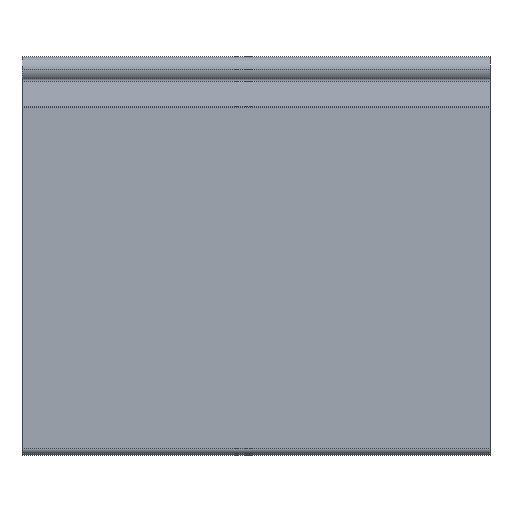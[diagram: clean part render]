
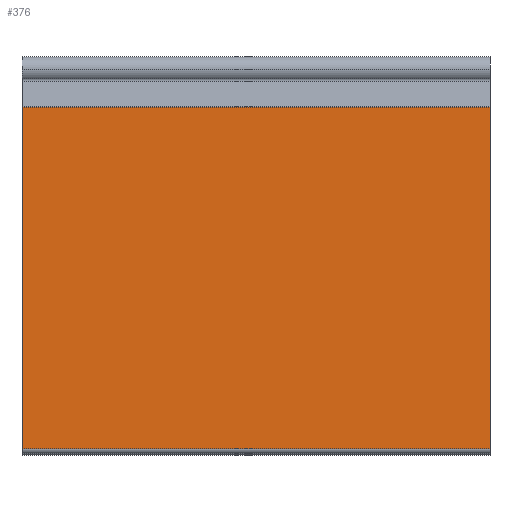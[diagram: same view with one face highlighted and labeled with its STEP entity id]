
A CAD part, top view. The second image highlights one B-rep face of the part: STEP entity #376.
In plain terms, the highlighted planar face has unit normal (0, 0, 1).
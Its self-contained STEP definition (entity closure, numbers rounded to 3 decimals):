
#77 = VECTOR ( 'NONE', #477, 1000. ) ;
#80 = LINE ( 'NONE', #468, #77 ) ;
#104 = LINE ( 'NONE', #501, #105 ) ;
#105 = VECTOR ( 'NONE', #502, 1000. ) ;
#106 = LINE ( 'NONE', #503, #107 ) ;
#107 = VECTOR ( 'NONE', #504, 1000. ) ;
#180 = LINE ( 'NONE', #600, #183 ) ;
#183 = VECTOR ( 'NONE', #601, 1000. ) ;
#331 = EDGE_LOOP ( 'NONE', ( #851, #850, #849, #848 ) ) ;
#376 = ADVANCED_FACE ( 'NONE', ( #985 ), #1189, .F. ) ;
#442 = EDGE_CURVE ( 'NONE', #1083, #1092, #80, .T. ) ;
#454 = EDGE_CURVE ( 'NONE', #1057, #1083, #104, .T. ) ;
#468 = CARTESIAN_POINT ( 'NONE',  ( -75., -12.164, 4.05 ) ) ;
#477 = DIRECTION ( 'NONE',  ( 0., -1., 0. ) ) ;
#501 = CARTESIAN_POINT ( 'NONE',  ( 75., -12.164, 4.05 ) ) ;
#502 = DIRECTION ( 'NONE',  ( -1., 0., 0. ) ) ;
#503 = CARTESIAN_POINT ( 'NONE',  ( 75., -121.663, 4.05 ) ) ;
#504 = DIRECTION ( 'NONE',  ( -1., 0., 0. ) ) ;
#600 = CARTESIAN_POINT ( 'NONE',  ( 75., -12.164, 4.05 ) ) ;
#601 = DIRECTION ( 'NONE',  ( 0., -1., 0. ) ) ;
#636 = CARTESIAN_POINT ( 'NONE',  ( 75., -121.663, 4.05 ) ) ;
#645 = CARTESIAN_POINT ( 'NONE',  ( 75., -12.164, 4.05 ) ) ;
#671 = CARTESIAN_POINT ( 'NONE',  ( -75., -12.164, 4.05 ) ) ;
#680 = CARTESIAN_POINT ( 'NONE',  ( -75., -121.663, 4.05 ) ) ;
#715 = EDGE_CURVE ( 'NONE', #1048, #1092, #106, .T. ) ;
#759 = EDGE_CURVE ( 'NONE', #1057, #1048, #180, .T. ) ;
#794 = AXIS2_PLACEMENT_3D ( 'NONE', #1188, #1191, #1192 ) ;
#848 = ORIENTED_EDGE ( 'NONE', *, *, #454, .T. ) ;
#849 = ORIENTED_EDGE ( 'NONE', *, *, #759, .F. ) ;
#850 = ORIENTED_EDGE ( 'NONE', *, *, #715, .F. ) ;
#851 = ORIENTED_EDGE ( 'NONE', *, *, #442, .T. ) ;
#985 = FACE_OUTER_BOUND ( 'NONE', #331, .T. ) ;
#1048 = VERTEX_POINT ( 'NONE', #636 ) ;
#1057 = VERTEX_POINT ( 'NONE', #645 ) ;
#1083 = VERTEX_POINT ( 'NONE', #671 ) ;
#1092 = VERTEX_POINT ( 'NONE', #680 ) ;
#1188 = CARTESIAN_POINT ( 'NONE',  ( 75., -12.164, 4.05 ) ) ;
#1189 = PLANE ( 'NONE',  #794 ) ;
#1191 = DIRECTION ( 'NONE',  ( 0., 0., -1. ) ) ;
#1192 = DIRECTION ( 'NONE',  ( 0., 1., 0. ) ) ;
